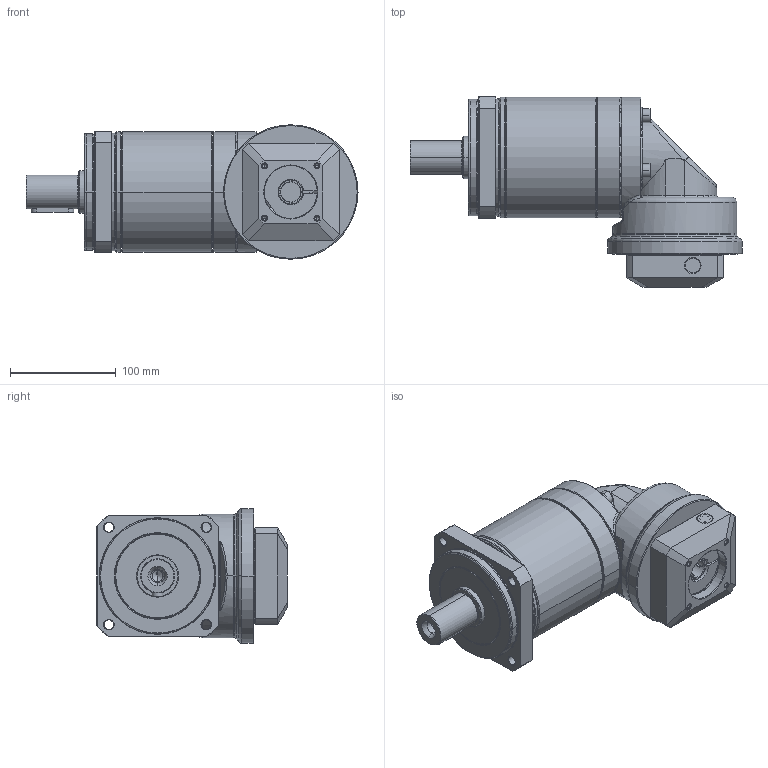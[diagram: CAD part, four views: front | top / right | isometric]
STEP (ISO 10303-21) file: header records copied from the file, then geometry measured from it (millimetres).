
FILE_DESCRIPTION((''),'2;1');
FILE_NAME('PA2R-115_2ST_19-P0411400101_ASM','2016-05-16T',('d01943'),(''),'PRO/ENGINEER BY PARAMETRIC TECHNOLOGY CORPORATION, 2008410','PRO/ENGINEER BY PARAMETRIC TECHNOLOGY CORPORATION, 2008410','');
FILE_SCHEMA(('CONFIG_CONTROL_DESIGN'));
Length unit declared in the file: millimetre
Products named in the file (12): P1327410001; P0251400001; P0350400601; P1349400001; P1017400001; P0713400001; P0503400008; P1350400001; P0411400101; P1702500001; 2111B108035; PA2R-115_2ST_19-P0411400101_ASM
Assembly tree (14 placements, depth 2):
  PA2R-115_2ST_19-P0411400101_ASM
    P1327410001
    P0251400001
    P0350400601
    P1349400001
    P1017400001
    P0713400001
    P0503400008
    P1350400001
    P0411400101
    P1702500001
    2111B108035  x4
Bounding box: 313.5 x 180 x 127 mm (x, y, z)
Volume: 1763158.8 mm3; surface area: 346914 mm2
Topology: 14 solids, 14 shells, 738 faces, 1626 edges, 938 vertices
Faces by surface type: cylinder 218, cone 214, plane 168, torus 106, bspline 32
Entity records: 23457 total; most frequent: CARTESIAN_POINT 9153, DIRECTION 3162, ORIENTED_EDGE 2776, EDGE_CURVE 1388, AXIS2_PLACEMENT_3D 1332, VERTEX_POINT 818, EDGE_LOOP 720, CIRCLE 699
